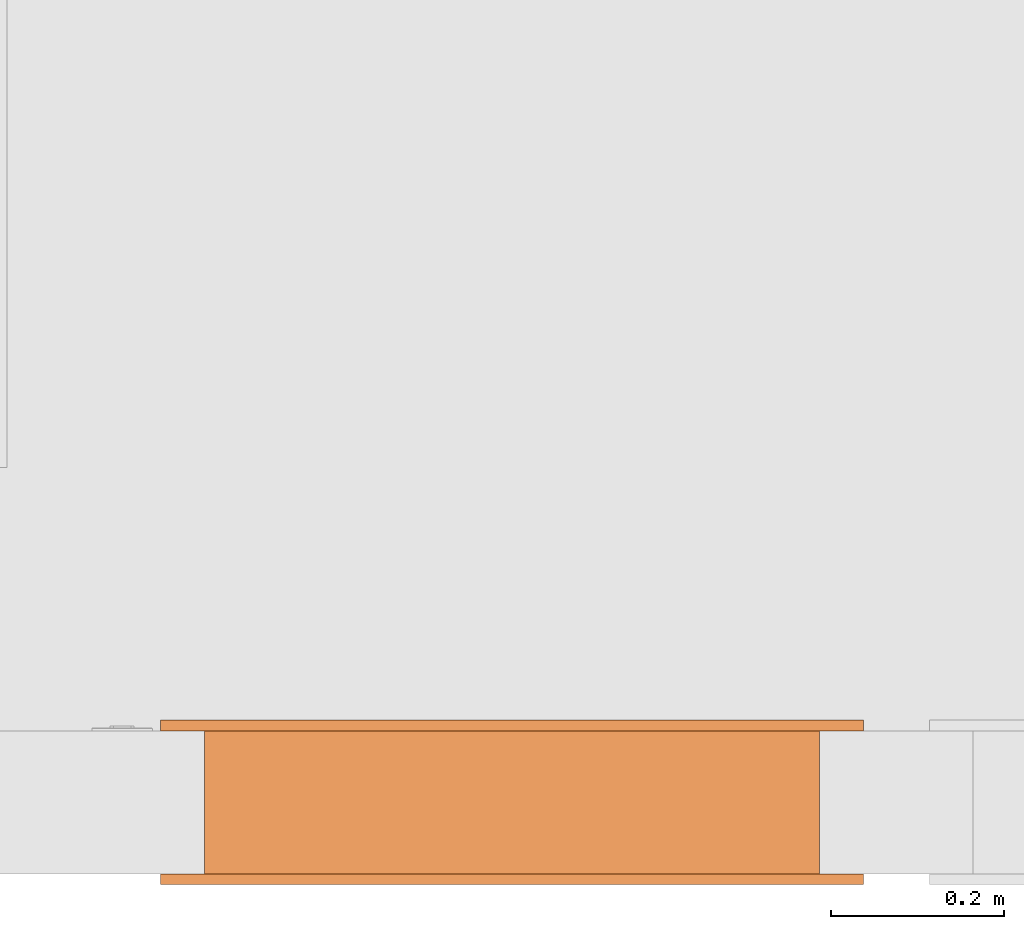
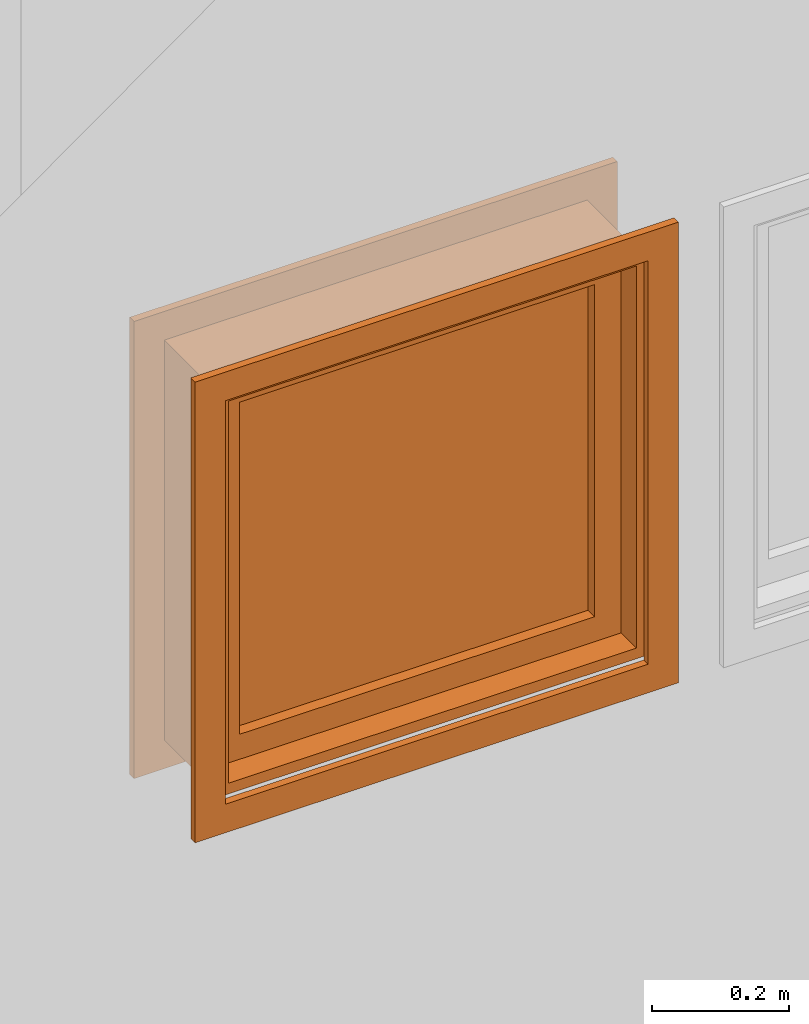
# One storey, part 55 of 103: 1 proxy.
"""IFC2X3 building model written with IfcOpenShell, lengths in inches."""

import ifcopenshell
import ifcopenshell.guid

model = None  # the IFC model being written
_history = None  # IfcOwnerHistory: only IFC2X3 demands one
_inside = {}  # id of a spatial element -> (the spatial element, [elements in it])
_under = {}  # id of a project, library or spatial element -> (it, [spatial elements below it])
_declared = {}  # id of a project -> (the project, [libraries it declares])
_typed = {}  # id of a type object -> (the type object, [elements of that type])
_made_of = {}  # id of a material, layer set ... -> (it, [elements and type objects made of it])


def new_model(schema):
    """Start an empty IFC model of exactly this schema.

    Asked for "IFC4X3", IfcOpenShell would pick the latest addendum, in which some entities
    have other attributes; the version numbers below select the first issue.
    IFC2X3 requires an IfcOwnerHistory on every rooted entity: one is made here for all.
    """
    global model, _history
    if schema == "IFC4X3":
        model = ifcopenshell.file(schema_version=(4, 3, 0, 0))
    else:
        model = ifcopenshell.file(schema=schema)
    _inside.clear()
    _under.clear()
    _declared.clear()
    _typed.clear()
    _made_of.clear()
    _history = None
    if model.schema == "IFC2X3":
        org = make("IfcOrganization", Name="unknown")
        user = make(
            "IfcPersonAndOrganization",
            ThePerson=make("IfcPerson", FamilyName="unknown"),
            TheOrganization=org,
        )
        app = make(
            "IfcApplication",
            ApplicationDeveloper=org,
            Version="unknown",
            ApplicationFullName="unknown",
            ApplicationIdentifier="unknown",
        )
        _history = make(
            "IfcOwnerHistory",
            OwningUser=user,
            OwningApplication=app,
            ChangeAction="ADDED",
            CreationDate=0,
        )
    return model


def make(cls, **values):
    """One entity of the class cls with the attributes given. An attribute that is None is left unset."""
    return model.create_entity(
        cls, **{name: value for name, value in values.items() if value is not None}
    )


def entity(cls, *values):
    """Any entity or typed value of the class cls, its attributes in the order of the schema. None: left unset."""
    e = model.create_entity(cls)
    for i, value in enumerate(values):
        if value is not None:
            e[i] = value
    return e


def rooted(cls, **values):
    """An entity with a GlobalId (a new one), such as an element, a storey or a relation."""
    return make(cls, GlobalId=ifcopenshell.guid.new(), OwnerHistory=_history, **values)


def si_unit(unit_type, name, prefix=None):
    """IfcSIUnit, for example si_unit("LENGTHUNIT", "METRE", prefix="MILLI")."""
    return make("IfcSIUnit", UnitType=unit_type, Prefix=prefix, Name=name)


def converted_unit(unit_type, name, factor, base, dimensions=None, offset=None):
    """IfcConversionBasedUnit, such as the inch: factor (a typed value) times the base unit."""
    return make(
        "IfcConversionBasedUnit"
        if offset is None
        else "IfcConversionBasedUnitWithOffset",
        ConversionOffset=offset,
        Dimensions=None
        if dimensions is None
        else entity("IfcDimensionalExponents", *dimensions),
        UnitType=unit_type,
        Name=name,
        ConversionFactor=make(
            "IfcMeasureWithUnit", ValueComponent=factor, UnitComponent=base
        ),
    )


def derived_unit(unit_type, elements):
    """IfcDerivedUnit: a product of units, each with its exponent."""
    return make(
        "IfcDerivedUnit",
        Elements=[
            make("IfcDerivedUnitElement", Unit=unit, Exponent=power)
            for unit, power in elements
        ],
        UnitType=unit_type,
    )


def money_unit(currency):
    """IfcMonetaryUnit."""
    return make("IfcMonetaryUnit", Currency=currency)


def assignment(units):
    """IfcUnitAssignment: the units of a project."""
    return None if units is None else make("IfcUnitAssignment", Units=units)


def point(xyz):
    """IfcCartesianPoint."""
    return None if xyz is None else make("IfcCartesianPoint", Coordinates=xyz)


def direction(xyz):
    """IfcDirection."""
    return None if xyz is None else make("IfcDirection", DirectionRatios=xyz)


def frame(location, z_axis=None, x_axis=None):
    """IfcAxis2Placement3D, a coordinate frame: its origin and axes. An axis left out is left unset."""
    return make(
        "IfcAxis2Placement3D",
        Location=point(location),
        Axis=direction(z_axis),
        RefDirection=direction(x_axis),
    )


def origin_with_axes():
    """The frame at (0, 0, 0) with the z axis (0, 0, 1) and the x axis (1, 0, 0) written out."""
    return frame((0.0, 0.0, 0.0), z_axis=(0.0, 0.0, 1.0), x_axis=(1.0, 0.0, 0.0))


def place(relative_to, where):
    """IfcLocalPlacement: puts the frame where relative to a parent placement (None: the world)."""
    return make(
        "IfcLocalPlacement", PlacementRelTo=relative_to, RelativePlacement=where
    )


def context(
    kind, dimensions, precision=None, world=None, true_north=None, identifier=None
):
    """IfcGeometricRepresentationContext, for example the 3D "Model" context."""
    return make(
        "IfcGeometricRepresentationContext",
        ContextIdentifier=identifier,
        ContextType=kind,
        CoordinateSpaceDimension=dimensions,
        Precision=precision,
        WorldCoordinateSystem=world,
        TrueNorth=true_north,
    )


def subcontext(parent, identifier, kind, view, scale=None):
    """IfcGeometricRepresentationSubContext, for example "Body" below "Model"."""
    return make(
        "IfcGeometricRepresentationSubContext",
        ContextIdentifier=identifier,
        ContextType=kind,
        ParentContext=parent,
        TargetScale=scale,
        TargetView=view,
    )


def project(units=None, contexts=None):
    """IfcProject with its units and contexts."""
    return rooted(
        "IfcProject",
        Name="project",
        RepresentationContexts=contexts,
        UnitsInContext=assignment(units),
    )


def spatial(cls, under=None, at=None, **own):
    """A site, building, storey or space (cls), placed at a placement, below another one or the project."""
    s = rooted(cls, ObjectPlacement=at, **own)
    if under is not None:
        _under.setdefault(under.id(), (under, []))[1].append(s)
    return s


def faces_of(points, faces, orient=None, outer=None):
    """IfcFace entities. A face is a list of loops; a loop is a list of indices into points, from 0.

    orient and outer hold one flag for each loop. By default every Orientation is true, the
    first loop of a face is its IfcFaceOuterBound and the others are IfcFaceBound.
    """
    made = []
    for i, loops in enumerate(faces):
        bounds = []
        for j, loop in enumerate(loops):
            is_outer = j == 0 if outer is None else outer[i][j]
            bounds.append(
                make(
                    "IfcFaceOuterBound" if is_outer else "IfcFaceBound",
                    Bound=make("IfcPolyLoop", Polygon=[points[k] for k in loop]),
                    Orientation=True if orient is None else orient[i][j],
                )
            )
        made.append(make("IfcFace", Bounds=bounds))
    return made


def faceted_brep(points, faces, orient=None, outer=None, voids=None):
    """IfcFacetedBrep: a solid bounded by flat faces; with voids (closed shells), ...WithVoids."""
    shared = [point(p) for p in points]
    hull = make("IfcClosedShell", CfsFaces=faces_of(shared, faces, orient, outer))
    if voids is None:
        return make("IfcFacetedBrep", Outer=hull)
    return make(
        "IfcFacetedBrepWithVoids",
        Outer=hull,
        Voids=[
            make(cls, CfsFaces=faces_of(shared, fs, o, b)) for cls, fs, o, b in voids
        ],
    )


def shape(context_of_items, identifier, shape_type, items):
    """IfcShapeRepresentation: the items that make up one representation, for example the "Body"."""
    return make(
        "IfcShapeRepresentation",
        ContextOfItems=context_of_items,
        RepresentationIdentifier=identifier,
        RepresentationType=shape_type,
        Items=items,
    )


def source(mapping_origin, context_of_items, identifier, shape_type, items):
    """IfcRepresentationMap: a shape defined once, which mapped items show again and again."""
    return make(
        "IfcRepresentationMap",
        MappingOrigin=mapping_origin,
        MappedRepresentation=shape(context_of_items, identifier, shape_type, items),
    )


def transform(
    local_origin,
    x_axis=None,
    y_axis=None,
    z_axis=None,
    scale=None,
    scale2=None,
    scale3=None,
    uniform=True,
):
    """IfcCartesianTransformationOperator3D, or its non-uniform kind. x_axis, y_axis, z_axis: its Axis1, 2, 3."""
    if uniform:
        return make(
            "IfcCartesianTransformationOperator3D",
            Axis1=direction(x_axis),
            Axis2=direction(y_axis),
            LocalOrigin=point(local_origin),
            Scale=scale,
            Axis3=direction(z_axis),
        )
    return make(
        "IfcCartesianTransformationOperator3DnonUniform",
        Axis1=direction(x_axis),
        Axis2=direction(y_axis),
        LocalOrigin=point(local_origin),
        Scale=scale,
        Axis3=direction(z_axis),
        Scale2=scale2,
        Scale3=scale3,
    )


def mapped(mapping_source, mapping_target):
    """IfcMappedItem: shows the shape of a source again, moved by a transform."""
    return make(
        "IfcMappedItem", MappingSource=mapping_source, MappingTarget=mapping_target
    )


def made_of(thing, what):
    """Note that an element or type object is made of a material, layer set ...; save() writes the relation."""
    if what is not None:
        _made_of.setdefault(what.id(), (what, []))[1].append(thing)
    return thing


def type_object(cls, material=None, **own):
    """A type object (cls), such as IfcWallType, which elements share."""
    return made_of(rooted(cls, **own), material)


def element(
    cls,
    number,
    at=None,
    inside=None,
    cuts=None,
    type_object=None,
    material=None,
    context=None,
    identifier="Body",
    shape_type=None,
    held_by="IfcProductDefinitionShape",
    body=None,
    shapes=None,
    **own,
):
    """One element of the class cls, such as IfcWall. Its Tag is "e" and its number.

    at: its placement. inside: the storey or other place that contains it. cuts: it is an
    opening in that element (IfcRelVoidsElement). A single representation is given by context,
    identifier, shape_type and body (its items); several are given by shapes. held_by: the class
    of the entity that holds the representations. save() writes the other relations.
    """
    e = rooted(cls, Tag="e%d" % number, ObjectPlacement=at, **own)
    if body is not None:
        shapes = [shape(context, identifier, shape_type, body)]
    if shapes is not None:
        e.Representation = make(held_by, Representations=shapes)
    if inside is not None:
        _inside.setdefault(inside.id(), (inside, []))[1].append(e)
    if cuts is not None:
        rooted(
            "IfcRelVoidsElement", RelatingBuildingElement=cuts, RelatedOpeningElement=e
        )
    if type_object is not None:
        _typed.setdefault(type_object.id(), (type_object, []))[1].append(e)
    return made_of(e, material)


def aggregate(whole, parts):
    """IfcRelAggregates: a whole, such as a stair, and the parts it consists of."""
    return rooted("IfcRelAggregates", RelatingObject=whole, RelatedObjects=parts)


def save(model, path):
    """Write the relations noted so far, then the file.

    IfcRelAggregates (storeys below a building ...), IfcRelContainedInSpatialStructure (elements
    in a storey), IfcRelDefinesByType, IfcRelAssociatesMaterial and IfcRelDeclares: one each for
    every whole, place, type object, material and project.
    """
    for whole, parts in _under.values():
        aggregate(whole, parts)
    for where, things in _inside.values():
        rooted(
            "IfcRelContainedInSpatialStructure",
            RelatedElements=things,
            RelatingStructure=where,
        )
    for kind, things in _typed.values():
        rooted("IfcRelDefinesByType", RelatedObjects=things, RelatingType=kind)
    for what, things in _made_of.values():
        rooted("IfcRelAssociatesMaterial", RelatedObjects=things, RelatingMaterial=what)
    for by, libraries in _declared.values():
        rooted("IfcRelDeclares", RelatingContext=by, RelatedDefinitions=libraries)
    model.write(path)


model = new_model("IFC2X3")

# Units and contexts
model_context = context("Model", 3, precision=0.00039370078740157, world=origin_with_axes(), true_north=direction((0.0, 1.0)))
plan_context = context("Plan", 3, precision=0.00039370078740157, world=origin_with_axes(), true_north=direction((0.0, 1.0)))
body_context = subcontext(model_context, "Body", "Model", "MODEL_VIEW")
ifc_project = project(units=[converted_unit("LENGTHUNIT", "INCH", entity("IfcPositiveLengthMeasure", 0.0254), si_unit("LENGTHUNIT", "METRE"), dimensions=[1, 0, 0, 0, 0, 0, 0]), converted_unit("AREAUNIT", "SQUARE_FOOT", entity("IfcPositiveLengthMeasure", 0.09290304), si_unit("AREAUNIT", "SQUARE_METRE"), dimensions=[2, 0, 0, 0, 0, 0, 0]), si_unit("PLANEANGLEUNIT", "RADIAN"), si_unit("SOLIDANGLEUNIT", "STERADIAN"), money_unit("USD"), converted_unit("TIMEUNIT", "Year", entity("IfcTimeMeasure", 31557600.0), si_unit("TIMEUNIT", "SECOND"), dimensions=[0, 0, 1, 0, 0, 0, 0]), si_unit("MASSUNIT", "GRAM", prefix="KILO"), si_unit("THERMODYNAMICTEMPERATUREUNIT", "DEGREE_CELSIUS"), si_unit("LUMINOUSINTENSITYUNIT", "LUMEN"), si_unit("ENERGYUNIT", "JOULE", prefix="MEGA"), derived_unit("SPECIFICHEATCAPACITYUNIT", [(si_unit("ENERGYUNIT", "JOULE"), 1), (si_unit("MASSUNIT", "GRAM", prefix="KILO"), -1), (si_unit("THERMODYNAMICTEMPERATUREUNIT", "KELVIN"), -1)])], contexts=[model_context, plan_context])

# Site, building, storey
site_placement = place(None, origin_with_axes())
site = spatial("IfcSite", under=ifc_project, at=site_placement, Name="Site", CompositionType="ELEMENT")
building_placement = place(site_placement, origin_with_axes())
building = spatial("IfcBuilding", under=site, at=building_placement, Name="Building", CompositionType="ELEMENT")
storey_placement = place(building_placement, frame((0.0, 0.0, 127.9999999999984), z_axis=(0.0, 0.0, 1.0), x_axis=(1.0, 0.0, 0.0)))
storey = spatial("IfcBuildingStorey", under=building, at=storey_placement, Name="Second Floor", CompositionType="ELEMENT", Elevation=128.0)

# Proxy
building_element_proxy_type = type_object("IfcBuildingElementProxyType", Name="W Fixed", PredefinedType="NOTDEFINED")
shared_shape = source(origin_with_axes(), body_context, "Body", "Brep", [
    faceted_brep([(13.99999999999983, 0.0, 0.0), (-13.99999999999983, 0.0, 0.0), (-13.99999999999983, 1.999999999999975, 0.0), (13.99999999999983, 1.999999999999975, 0.0), (13.99999999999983, 0.0, 27.99999999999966), (-13.99999999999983, 0.0, 27.99999999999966), (13.49999999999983, 0.0, 0.4999999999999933), (-13.49999999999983, 0.0, 0.4999999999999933), (-13.49999999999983, 0.0, 27.49999999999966), (13.49999999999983, 0.0, 27.49999999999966), (-13.99999999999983, 1.999999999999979, 27.99999999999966), (13.99999999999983, 1.999999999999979, 27.99999999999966), (13.49999999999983, 1.999999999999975, 0.4999999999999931), (13.49999999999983, 1.999999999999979, 27.49999999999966), (-13.49999999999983, 1.999999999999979, 27.49999999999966), (-13.49999999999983, 1.999999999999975, 0.4999999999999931)], [[[0, 1, 2, 3]], [[0, 4, 5, 1], [6, 7, 8, 9]], [[1, 5, 10, 2]], [[3, 2, 10, 11], [12, 13, 14, 15]], [[4, 0, 3, 11]], [[5, 4, 11, 10]], [[7, 6, 12, 15]], [[8, 7, 15, 14]], [[9, 8, 14, 13]], [[6, 9, 13, 12]]]),
    faceted_brep([(15.9999999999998, 2.499999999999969, -1.999999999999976), (15.9999999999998, 1.999999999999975, -1.999999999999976), (13.99999999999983, 1.999999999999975, 0.0), (13.99999999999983, 2.499999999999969, 0.0), (15.9999999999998, 2.499999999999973, 29.99999999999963), (15.9999999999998, 1.999999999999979, 29.99999999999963), (13.99999999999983, 1.999999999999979, 27.99999999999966), (13.99999999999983, 2.499999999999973, 27.99999999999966)], [[[0, 1, 2, 3]], [[4, 5, 1, 0]], [[1, 5, 6, 2]], [[3, 2, 6, 7]], [[0, 3, 7, 4]], [[7, 6, 5, 4]]]),
    faceted_brep([(-15.9999999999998, 2.499999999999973, 29.99999999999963), (-15.9999999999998, 1.999999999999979, 29.99999999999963), (-13.99999999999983, 1.999999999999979, 27.99999999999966), (-13.99999999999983, 2.499999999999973, 27.99999999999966), (-15.9999999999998, 2.499999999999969, -1.999999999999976), (-15.9999999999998, 1.999999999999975, -1.999999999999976), (-13.99999999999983, 1.999999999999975, 0.0), (-13.99999999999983, 2.499999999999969, 0.0)], [[[0, 1, 2, 3]], [[4, 5, 1, 0]], [[1, 5, 6, 2]], [[3, 2, 6, 7]], [[0, 3, 7, 4]], [[7, 6, 5, 4]]]),
    faceted_brep([(-15.9999999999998, 2.499999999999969, -1.999999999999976), (-15.9999999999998, 1.999999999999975, -1.999999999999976), (-13.99999999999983, 1.999999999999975, 0.0), (-13.99999999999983, 2.499999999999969, 0.0), (15.9999999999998, 2.499999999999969, -1.999999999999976), (15.9999999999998, 1.999999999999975, -1.999999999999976), (13.99999999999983, 1.999999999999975, 0.0), (13.99999999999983, 2.499999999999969, 0.0)], [[[0, 1, 2, 3]], [[4, 5, 1, 0]], [[1, 5, 6, 2]], [[3, 2, 6, 7]], [[0, 3, 7, 4]], [[7, 6, 5, 4]]]),
    faceted_brep([(15.9999999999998, 2.499999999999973, 29.99999999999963), (15.9999999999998, 1.999999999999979, 29.99999999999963), (13.99999999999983, 1.999999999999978, 27.99999999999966), (13.99999999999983, 2.499999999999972, 27.99999999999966), (-15.9999999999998, 2.499999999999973, 29.99999999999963), (-15.9999999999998, 1.999999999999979, 29.99999999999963), (-13.99999999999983, 1.999999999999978, 27.99999999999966), (-13.99999999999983, 2.499999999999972, 27.99999999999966)], [[[0, 1, 2, 3]], [[4, 5, 1, 0]], [[1, 5, 6, 2]], [[3, 2, 6, 7]], [[0, 3, 7, 4]], [[7, 6, 5, 4]]]),
    faceted_brep([(15.9999999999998, -4.999999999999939, -2.249999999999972), (13.99999999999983, -4.999999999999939, -0.2499999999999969), (13.99999999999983, -4.499999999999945, -0.249999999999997), (15.9999999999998, -4.499999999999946, -2.249999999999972), (15.9999999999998, -4.999999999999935, 29.99999999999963), (13.99999999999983, -4.999999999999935, 27.99999999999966), (13.99999999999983, -4.499999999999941, 27.99999999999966), (15.9999999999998, -4.499999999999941, 29.99999999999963)], [[[0, 1, 2, 3]], [[0, 4, 5, 1]], [[1, 5, 6, 2]], [[3, 2, 6, 7]], [[4, 0, 3, 7]], [[5, 4, 7, 6]]]),
    faceted_brep([(-15.9999999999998, -4.999999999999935, 29.99999999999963), (-13.99999999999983, -4.999999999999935, 27.99999999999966), (-13.99999999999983, -4.499999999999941, 27.99999999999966), (-15.9999999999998, -4.499999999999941, 29.99999999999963), (-15.9999999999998, -4.999999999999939, -2.249999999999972), (-13.99999999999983, -4.999999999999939, -0.2499999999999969), (-13.99999999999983, -4.499999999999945, -0.249999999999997), (-15.9999999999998, -4.499999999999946, -2.249999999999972)], [[[0, 1, 2, 3]], [[0, 4, 5, 1]], [[1, 5, 6, 2]], [[3, 2, 6, 7]], [[4, 0, 3, 7]], [[5, 4, 7, 6]]]),
    faceted_brep([(-15.9999999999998, -4.999999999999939, -2.249999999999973), (-13.99999999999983, -4.999999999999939, -0.2499999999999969), (-13.99999999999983, -4.499999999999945, -0.249999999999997), (-15.9999999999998, -4.499999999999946, -2.249999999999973), (15.9999999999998, -4.999999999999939, -2.249999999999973), (13.99999999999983, -4.999999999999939, -0.2499999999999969), (13.99999999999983, -4.499999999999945, -0.249999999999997), (15.9999999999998, -4.499999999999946, -2.249999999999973)], [[[0, 1, 2, 3]], [[0, 4, 5, 1]], [[1, 5, 6, 2]], [[3, 2, 6, 7]], [[4, 0, 3, 7]], [[5, 4, 7, 6]]]),
    faceted_brep([(15.9999999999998, -4.999999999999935, 29.99999999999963), (13.99999999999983, -4.999999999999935, 27.99999999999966), (13.99999999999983, -4.499999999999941, 27.99999999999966), (15.9999999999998, -4.499999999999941, 29.99999999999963), (-15.9999999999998, -4.999999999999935, 29.99999999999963), (-13.99999999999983, -4.999999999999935, 27.99999999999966), (-13.99999999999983, -4.499999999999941, 27.99999999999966), (-15.9999999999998, -4.499999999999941, 29.99999999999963)], [[[0, 1, 2, 3]], [[0, 4, 5, 1]], [[1, 5, 6, 2]], [[3, 2, 6, 7]], [[4, 0, 3, 7]], [[5, 4, 7, 6]]]),
    faceted_brep([(13.50039370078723, -4.499999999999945, 0.7539370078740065), (13.99999999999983, -4.499999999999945, 0.7539370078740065), (13.99999999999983, -4.499999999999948, 27.49606299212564), (13.50039370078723, -4.499999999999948, 27.49606299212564), (13.50039370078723, -2.749999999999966, 0.7539370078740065), (13.74999999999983, -2.749999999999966, 0.7539370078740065), (13.74999999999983, 0.0, 0.7539370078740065), (13.99999999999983, 0.0, 0.7539370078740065), (13.99999999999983, 0.0, 27.49606299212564), (13.74999999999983, 0.0, 27.49606299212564), (13.74999999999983, -2.749999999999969, 27.49606299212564), (13.50039370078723, -2.749999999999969, 27.49606299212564)], [[[0, 1, 2, 3]], [[4, 5, 6, 7, 1, 0]], [[7, 8, 2, 1]], [[3, 2, 8, 9, 10, 11]], [[11, 4, 0, 3]], [[11, 10, 5, 4]], [[5, 10, 9, 6]], [[7, 6, 9, 8]]]),
    faceted_brep([(-13.50039370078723, -2.749999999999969, 27.49606299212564), (-13.74999999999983, -2.749999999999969, 27.49606299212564), (-13.74999999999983, 0.0, 27.49606299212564), (-13.99999999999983, 0.0, 27.49606299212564), (-13.99999999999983, -4.499999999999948, 27.49606299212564), (-13.50039370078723, -4.499999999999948, 27.49606299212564), (-13.50039370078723, -2.749999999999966, 0.7539370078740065), (-13.74999999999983, -2.749999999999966, 0.7539370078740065), (-13.74999999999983, 0.0, 0.7539370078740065), (-13.99999999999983, 0.0, 0.7539370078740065), (-13.99999999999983, -4.499999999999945, 0.7539370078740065), (-13.50039370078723, -4.499999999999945, 0.7539370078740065)], [[[0, 1, 2, 3, 4, 5]], [[6, 7, 1, 0]], [[7, 8, 2, 1]], [[3, 2, 8, 9]], [[3, 9, 10, 4]], [[5, 4, 10, 11]], [[11, 6, 0, 5]], [[11, 10, 9, 8, 7, 6]]]),
    faceted_brep([(-13.50039370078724, -2.749999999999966, 0.7539370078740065), (-13.74999999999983, -2.749999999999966, 0.7539370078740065), (-13.74999999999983, 0.0, 0.7539370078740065), (-13.99999999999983, 0.0, 0.7539370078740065), (-13.99999999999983, -4.499999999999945, 0.7539370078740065), (-13.50039370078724, -4.499999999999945, 0.7539370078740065), (-13.50039370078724, -2.749999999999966, 0.7496062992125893), (13.50039370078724, -2.749999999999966, 0.7496062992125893), (13.50039370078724, -2.749999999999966, 0.7539370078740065), (13.74999999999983, -2.749999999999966, 0.7539370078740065), (13.74999999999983, -2.749999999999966, 0.4999999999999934), (-13.74999999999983, -2.749999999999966, 0.4999999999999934), (-13.74999999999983, 0.0, 0.4999999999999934), (13.99999999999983, 0.0, 0.0), (-13.99999999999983, 0.0, 0.0), (13.74999999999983, 0.0, 0.4999999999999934), (13.74999999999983, 0.0, 0.7539370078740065), (13.99999999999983, 0.0, 0.7539370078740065), (-13.99999999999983, -4.499999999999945, 0.0), (13.50039370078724, -4.499999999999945, 0.7496062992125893), (-13.50039370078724, -4.499999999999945, 0.7496062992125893), (13.99999999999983, -4.499999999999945, 0.0), (13.99999999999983, -4.499999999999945, 0.7539370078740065), (13.50039370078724, -4.499999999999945, 0.7539370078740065)], [[[0, 1, 2, 3, 4, 5]], [[6, 7, 8, 9, 10, 11, 1, 0]], [[11, 12, 2, 1]], [[13, 14, 3, 2, 12, 15, 16, 17]], [[3, 14, 18, 4]], [[19, 20, 5, 4, 18, 21, 22, 23]], [[20, 6, 0, 5]], [[19, 7, 6, 20]], [[8, 7, 19, 23]], [[23, 22, 17, 16, 9, 8]], [[10, 9, 16, 15]], [[10, 15, 12, 11]], [[14, 13, 21, 18]], [[13, 17, 22, 21]]]),
    faceted_brep([(13.50039370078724, -4.499999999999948, 27.49606299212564), (13.99999999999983, -4.499999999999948, 27.49606299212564), (13.99999999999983, -4.499999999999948, 27.99999999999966), (-13.99999999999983, -4.499999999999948, 27.99999999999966), (-13.99999999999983, -4.499999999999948, 27.49606299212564), (-13.50039370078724, -4.499999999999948, 27.49606299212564), (-13.50039370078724, -4.499999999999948, 27.50039370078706), (13.50039370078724, -4.499999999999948, 27.50039370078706), (13.50039370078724, -2.749999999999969, 27.49606299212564), (13.74999999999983, -2.749999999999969, 27.49606299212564), (13.74999999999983, 0.0, 27.49606299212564), (13.99999999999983, 0.0, 27.49606299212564), (13.99999999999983, 0.0, 27.99999999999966), (-13.99999999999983, 0.0, 27.99999999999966), (-13.99999999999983, 0.0, 27.49606299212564), (-13.74999999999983, 0.0, 27.49606299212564), (-13.74999999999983, -2.749999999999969, 27.49606299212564), (-13.50039370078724, -2.749999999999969, 27.49606299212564), (-13.50039370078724, -2.749999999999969, 27.50039370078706), (13.50039370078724, -2.749999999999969, 27.50039370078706), (-13.74999999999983, -2.749999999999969, 27.74999999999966), (13.74999999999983, -2.749999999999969, 27.74999999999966), (13.74999999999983, 0.0, 27.74999999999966), (-13.74999999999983, 0.0, 27.74999999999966)], [[[0, 1, 2, 3, 4, 5, 6, 7]], [[8, 9, 10, 11, 1, 0]], [[11, 12, 2, 1]], [[12, 13, 3, 2]], [[13, 14, 4, 3]], [[5, 4, 14, 15, 16, 17]], [[5, 17, 18, 6]], [[6, 18, 19, 7]], [[7, 19, 8, 0]], [[19, 18, 17, 16, 20, 21, 9, 8]], [[21, 22, 10, 9]], [[15, 14, 13, 12, 11, 10, 22, 23]], [[16, 15, 23, 20]], [[20, 23, 22, 21]]]),
    faceted_brep([(11.74999999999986, -2.749999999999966, 2.499999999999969), (11.74999999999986, -2.749999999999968, 25.74999999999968), (11.74999999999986, -1.874999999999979, 25.74999999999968), (11.74999999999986, -1.874999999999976, 2.499999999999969), (13.74999999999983, -2.749999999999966, 2.499999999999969), (13.74999999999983, -2.749999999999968, 25.74999999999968), (13.74999999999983, -1.874999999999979, 25.74999999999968), (13.74999999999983, -1.874999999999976, 2.499999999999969)], [[[0, 1, 2, 3]], [[0, 4, 5, 1]], [[1, 5, 6, 2]], [[3, 2, 6, 7]], [[4, 0, 3, 7]], [[5, 4, 7, 6]]]),
    faceted_brep([(-13.74999999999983, -2.749999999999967, 2.499999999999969), (-13.74999999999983, -2.74999999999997, 25.74999999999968), (-13.74999999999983, -1.874999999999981, 25.74999999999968), (-13.74999999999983, -1.874999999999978, 2.499999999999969), (-11.74999999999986, -2.749999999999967, 2.499999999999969), (-11.74999999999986, -2.74999999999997, 25.74999999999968), (-11.74999999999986, -1.874999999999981, 25.74999999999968), (-11.74999999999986, -1.874999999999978, 2.499999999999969)], [[[0, 1, 2, 3]], [[0, 4, 5, 1]], [[1, 5, 6, 2]], [[3, 2, 6, 7]], [[4, 0, 3, 7]], [[5, 4, 7, 6]]]),
    faceted_brep([(-13.74999999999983, -2.749999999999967, 0.4999999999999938), (-13.74999999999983, -2.749999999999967, 2.499999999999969), (-13.74999999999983, -1.874999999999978, 2.499999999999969), (-13.74999999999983, -1.874999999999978, 0.4999999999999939), (13.74999999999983, -2.749999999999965, 0.4999999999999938), (13.74999999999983, -2.749999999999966, 2.499999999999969), (11.74999999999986, -2.749999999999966, 2.499999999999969), (0.9999999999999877, -2.749999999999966, 2.499999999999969), (-0.9999999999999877, -2.749999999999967, 2.499999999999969), (-11.74999999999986, -2.749999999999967, 2.499999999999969), (-11.74999999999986, -1.874999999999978, 2.499999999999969), (-0.9999999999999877, -1.874999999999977, 2.499999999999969), (0.9999999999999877, -1.874999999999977, 2.499999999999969), (11.74999999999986, -1.874999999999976, 2.499999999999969), (13.74999999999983, -1.874999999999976, 2.499999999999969), (13.74999999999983, -1.874999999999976, 0.4999999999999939)], [[[0, 1, 2, 3]], [[0, 4, 5, 6, 7, 8, 9, 1]], [[1, 9, 10, 2]], [[3, 2, 10, 11, 12, 13, 14, 15]], [[4, 0, 3, 15]], [[5, 4, 15, 14]], [[6, 5, 14, 13]], [[7, 6, 13, 12]], [[8, 7, 12, 11]], [[9, 8, 11, 10]]]),
    faceted_brep([(13.74999999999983, -2.749999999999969, 27.74999999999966), (13.74999999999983, -2.749999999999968, 25.74999999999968), (13.74999999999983, -1.874999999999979, 25.74999999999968), (13.74999999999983, -1.874999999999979, 27.74999999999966), (-13.74999999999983, -2.749999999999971, 27.74999999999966), (-13.74999999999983, -2.74999999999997, 25.74999999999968), (-11.74999999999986, -2.74999999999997, 25.74999999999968), (-0.9999999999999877, -2.749999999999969, 25.74999999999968), (0.9999999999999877, -2.749999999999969, 25.74999999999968), (11.74999999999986, -2.749999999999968, 25.74999999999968), (11.74999999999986, -1.874999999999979, 25.74999999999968), (0.9999999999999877, -1.87499999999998, 25.74999999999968), (-0.9999999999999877, -1.87499999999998, 25.74999999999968), (-11.74999999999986, -1.874999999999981, 25.74999999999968), (-13.74999999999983, -1.874999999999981, 25.74999999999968), (-13.74999999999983, -1.874999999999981, 27.74999999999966)], [[[0, 1, 2, 3]], [[0, 4, 5, 6, 7, 8, 9, 1]], [[1, 9, 10, 2]], [[3, 2, 10, 11, 12, 13, 14, 15]], [[4, 0, 3, 15]], [[5, 4, 15, 14]], [[6, 5, 14, 13]], [[7, 6, 13, 12]], [[8, 7, 12, 11]], [[9, 8, 11, 10]]]),
    faceted_brep([(11.74999999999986, -1.874999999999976, 2.499999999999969), (11.74999999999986, -1.874999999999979, 25.74999999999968), (11.74999999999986, -0.9999999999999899, 25.74999999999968), (11.74999999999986, -0.9999999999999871, 2.499999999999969), (13.74999999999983, -1.874999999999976, 2.499999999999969), (13.74999999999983, -1.874999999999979, 25.74999999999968), (13.74999999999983, -0.9999999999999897, 25.74999999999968), (13.74999999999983, -0.9999999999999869, 2.499999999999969)], [[[0, 1, 2, 3]], [[0, 4, 5, 1]], [[1, 5, 6, 2]], [[3, 2, 6, 7]], [[4, 0, 3, 7]], [[5, 4, 7, 6]]]),
    faceted_brep([(-13.74999999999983, -1.874999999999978, 2.499999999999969), (-13.74999999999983, -1.874999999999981, 25.74999999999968), (-13.74999999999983, -0.9999999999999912, 25.74999999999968), (-13.74999999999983, -0.9999999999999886, 2.499999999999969), (-11.74999999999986, -1.874999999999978, 2.499999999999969), (-11.74999999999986, -1.874999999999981, 25.74999999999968), (-11.74999999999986, -0.999999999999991, 25.74999999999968), (-11.74999999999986, -0.9999999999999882, 2.499999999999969)], [[[0, 1, 2, 3]], [[0, 4, 5, 1]], [[1, 5, 6, 2]], [[3, 2, 6, 7]], [[4, 0, 3, 7]], [[5, 4, 7, 6]]]),
    faceted_brep([(-13.74999999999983, -1.874999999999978, 0.4999999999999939), (-13.74999999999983, -1.874999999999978, 2.499999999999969), (-13.74999999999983, -0.9999999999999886, 2.499999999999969), (-13.74999999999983, -0.9999999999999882, 0.499999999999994), (13.74999999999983, -1.874999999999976, 0.4999999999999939), (13.74999999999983, -1.874999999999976, 2.499999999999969), (11.74999999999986, -1.874999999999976, 2.499999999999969), (0.9999999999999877, -1.874999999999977, 2.499999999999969), (-0.9999999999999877, -1.874999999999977, 2.499999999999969), (-11.74999999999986, -1.874999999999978, 2.499999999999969), (-11.74999999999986, -0.9999999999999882, 2.499999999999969), (-0.9999999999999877, -0.9999999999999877, 2.499999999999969), (0.9999999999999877, -0.9999999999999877, 2.499999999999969), (11.74999999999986, -0.9999999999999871, 2.499999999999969), (13.74999999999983, -0.9999999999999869, 2.499999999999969), (13.74999999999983, -0.9999999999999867, 0.499999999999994)], [[[0, 1, 2, 3]], [[0, 4, 5, 6, 7, 8, 9, 1]], [[1, 9, 10, 2]], [[3, 2, 10, 11, 12, 13, 14, 15]], [[4, 0, 3, 15]], [[5, 4, 15, 14]], [[6, 5, 14, 13]], [[7, 6, 13, 12]], [[8, 7, 12, 11]], [[9, 8, 11, 10]]]),
    faceted_brep([(13.74999999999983, -1.874999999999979, 27.74999999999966), (13.74999999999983, -1.874999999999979, 25.74999999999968), (13.74999999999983, -0.9999999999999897, 25.74999999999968), (13.74999999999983, -0.9999999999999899, 27.74999999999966), (-13.74999999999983, -1.874999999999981, 27.74999999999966), (-13.74999999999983, -1.874999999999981, 25.74999999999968), (-11.74999999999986, -1.874999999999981, 25.74999999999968), (-0.9999999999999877, -1.87499999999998, 25.74999999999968), (0.9999999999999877, -1.87499999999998, 25.74999999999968), (11.74999999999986, -1.874999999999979, 25.74999999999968), (11.74999999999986, -0.9999999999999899, 25.74999999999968), (0.9999999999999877, -0.9999999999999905, 25.74999999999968), (-0.9999999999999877, -0.9999999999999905, 25.74999999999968), (-11.74999999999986, -0.999999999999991, 25.74999999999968), (-13.74999999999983, -0.9999999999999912, 25.74999999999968), (-13.74999999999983, -0.9999999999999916, 27.74999999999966)], [[[0, 1, 2, 3]], [[0, 4, 5, 6, 7, 8, 9, 1]], [[1, 9, 10, 2]], [[3, 2, 10, 11, 12, 13, 14, 15]], [[4, 0, 3, 15]], [[5, 4, 15, 14]], [[6, 5, 14, 13]], [[7, 6, 13, 12]], [[8, 7, 12, 11]], [[9, 8, 11, 10]]]),
    faceted_brep([(11.74999999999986, -1.999999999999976, 2.499999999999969), (-11.74999999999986, -1.999999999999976, 2.499999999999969), (-11.74999999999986, -1.749999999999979, 2.499999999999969), (11.74999999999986, -1.749999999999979, 2.499999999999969), (11.74999999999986, -1.999999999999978, 25.74999999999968), (-11.74999999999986, -1.999999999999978, 25.74999999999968), (-11.74999999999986, -1.749999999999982, 25.74999999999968), (11.74999999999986, -1.749999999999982, 25.74999999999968)], [[[0, 1, 2, 3]], [[0, 4, 5, 1]], [[1, 5, 6, 2]], [[3, 2, 6, 7]], [[4, 0, 3, 7]], [[5, 4, 7, 6]]]),
])
proxy_placement = place(storey_placement, frame((16.00018065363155, 6.500000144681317, 65.99999999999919), z_axis=(0.0, 0.0, 1.0), x_axis=(1.0, 0.0, 0.0)))
element("IfcBuildingElementProxy", 1, at=proxy_placement, inside=storey, type_object=building_element_proxy_type, Name="WD - 002", context=body_context, shape_type="MappedRepresentation", body=[
    mapped(shared_shape, transform((13.99999999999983, -1.999999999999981, 0.0))),
])

save(model, "model.ifc")
